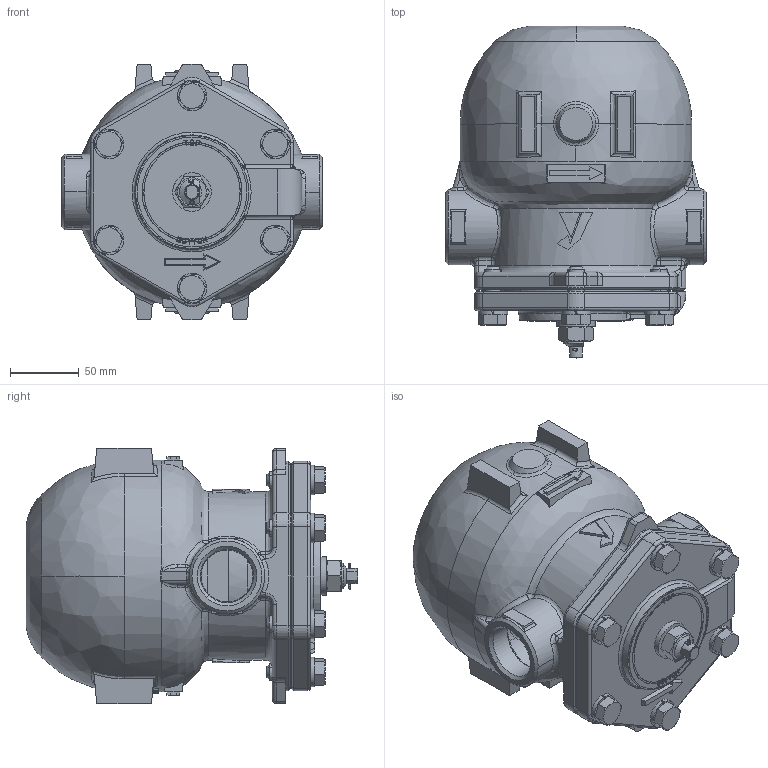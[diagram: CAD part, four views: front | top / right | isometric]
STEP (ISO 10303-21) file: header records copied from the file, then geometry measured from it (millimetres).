
FILE_DESCRIPTION( (''), '2;1');
FILE_NAME ('PC1027.12188.TSF-11S JISRc 32A_19277.stp','2025-07-31T09:30:57',(''),(''),'spGate 20.6.3 (****-****-****-****)','','');
FILE_SCHEMA (('AUTOMOTIVE_DESIGN'));
Length unit declared in the file: millimetre
Products named in the file (11): Assembly; _{__32A ____; 3D_@TSF-10_@_____s__; 3D_@TSF-10_@_Z_p_i_b_g; 3D_@TSF-10_@_J___[; 3D_@TSF-11_@________; ____; _R_b_N____; CP_''_JIS B 1180 _____a_Z_p_{___g''_17168; SSLW12; ________
Assembly tree (20 placements, depth 2):
  Assembly
    _{__32A ____
    3D_@TSF-10_@_____s__
    3D_@TSF-10_@_Z_p_i_b_g
    3D_@TSF-10_@_J___[
    3D_@TSF-11_@________
    ____
    _R_b_N____
    CP_''_JIS B 1180 _____a_Z_p_{___g''_17168  x6
    SSLW12  x6
    ________
Bounding box: 190 x 242 x 186 mm (x, y, z)
Volume: 3793829.4 mm3; surface area: 242635.4 mm2
Topology: 20 solids, 20 shells, 936 faces, 2941 edges, 2056 vertices
Faces by surface type: plane 411, bspline 312, cylinder 213
Entity records: 57158 total; most frequent: CARTESIAN_POINT 21463, ORIENTED_EDGE 4782, COLOUR_RGB 3187, PRESENTATION_STYLE_ASSIGNMENT 3187, STYLED_ITEM 3187, DIRECTION 2501, EDGE_CURVE 2391, DRAUGHTING_PRE_DEFINED_CURVE_FONT 2391
